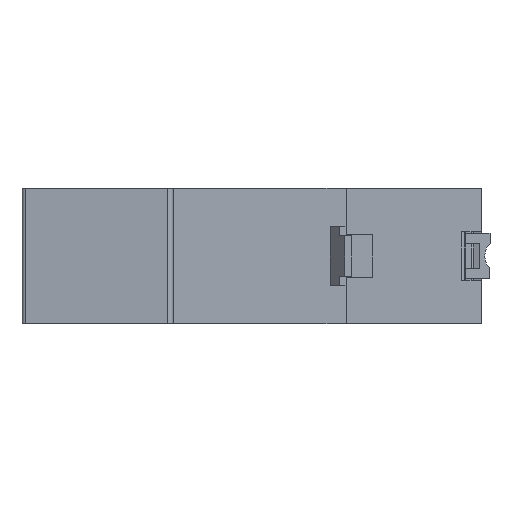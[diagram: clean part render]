
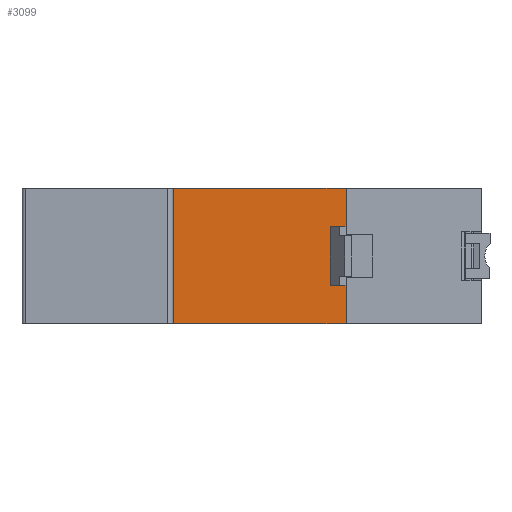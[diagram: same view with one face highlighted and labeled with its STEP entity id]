
A CAD part, front view. The second image highlights one B-rep face of the part: STEP entity #3099.
In plain terms, the highlighted planar face has unit normal (0, -1, 0).
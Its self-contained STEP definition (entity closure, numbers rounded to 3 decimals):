
#33 = VERTEX_POINT ( 'NONE', #18925 ) ;
#293 = VERTEX_POINT ( 'NONE', #7766 ) ;
#1090 = EDGE_CURVE ( 'NONE', #4707, #4674, #8118, .T. ) ;
#3099 = ADVANCED_FACE ( 'NONE', ( #18231 ), #18216, .F. ) ;
#3601 = EDGE_CURVE ( 'NONE', #293, #4707, #14272, .T. ) ;
#3707 = EDGE_CURVE ( 'NONE', #33, #293, #14925, .T. ) ;
#3708 = EDGE_CURVE ( 'NONE', #33, #4674, #14930, .T. ) ;
#4674 = VERTEX_POINT ( 'NONE', #20448 ) ;
#4707 = VERTEX_POINT ( 'NONE', #20481 ) ;
#4803 = ORIENTED_EDGE ( 'NONE', *, *, #3601, .F. ) ;
#4804 = ORIENTED_EDGE ( 'NONE', *, *, #1090, .F. ) ;
#4805 = ORIENTED_EDGE ( 'NONE', *, *, #3708, .T. ) ;
#4806 = ORIENTED_EDGE ( 'NONE', *, *, #3707, .F. ) ;
#7022 = VECTOR ( 'NONE', #8132, 1000. ) ;
#7766 = CARTESIAN_POINT ( 'NONE',  ( 12.171, -32.772, -13.25 ) ) ;
#8118 = LINE ( 'NONE', #8131, #7022 ) ;
#8131 = CARTESIAN_POINT ( 'NONE',  ( -23.829, -32.772, 13.25 ) ) ;
#8132 = DIRECTION ( 'NONE',  ( 0., 0., 1. ) ) ;
#12708 = EDGE_LOOP ( 'NONE', ( #4806, #4805, #4804, #4803 ) ) ;
#14272 = LINE ( 'NONE', #14274, #19911 ) ;
#14274 = CARTESIAN_POINT ( 'NONE',  ( -23.829, -32.772, -13.25 ) ) ;
#14275 = DIRECTION ( 'NONE',  ( -1., 0., 0. ) ) ;
#14925 = LINE ( 'NONE', #14926, #22227 ) ;
#14926 = CARTESIAN_POINT ( 'NONE',  ( 12.171, -32.772, 13.25 ) ) ;
#14928 = DIRECTION ( 'NONE',  ( 0., 0., -1. ) ) ;
#14930 = LINE ( 'NONE', #14934, #22228 ) ;
#14934 = CARTESIAN_POINT ( 'NONE',  ( 38.671, -32.772, 13.25 ) ) ;
#14935 = DIRECTION ( 'NONE',  ( -1., 0., 0. ) ) ;
#18216 = PLANE ( 'NONE',  #18763 ) ;
#18231 = FACE_OUTER_BOUND ( 'NONE', #12708, .T. ) ;
#18241 = CARTESIAN_POINT ( 'NONE',  ( -23.829, -32.772, 13.25 ) ) ;
#18242 = DIRECTION ( 'NONE',  ( 0., 1., 0. ) ) ;
#18243 = DIRECTION ( 'NONE',  ( -1., 0., 0. ) ) ;
#18763 = AXIS2_PLACEMENT_3D ( 'NONE', #18241, #18242, #18243 ) ;
#18925 = CARTESIAN_POINT ( 'NONE',  ( 12.171, -32.772, 13.25 ) ) ;
#19911 = VECTOR ( 'NONE', #14275, 1000. ) ;
#20448 = CARTESIAN_POINT ( 'NONE',  ( -23.829, -32.772, 13.25 ) ) ;
#20481 = CARTESIAN_POINT ( 'NONE',  ( -23.829, -32.772, -13.25 ) ) ;
#22227 = VECTOR ( 'NONE', #14928, 1000. ) ;
#22228 = VECTOR ( 'NONE', #14935, 1000. ) ;
